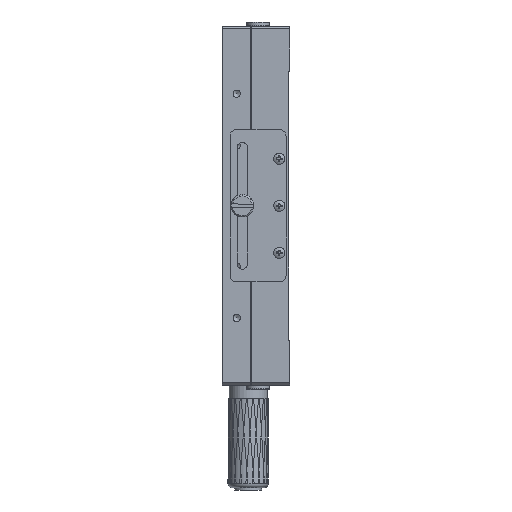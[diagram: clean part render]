
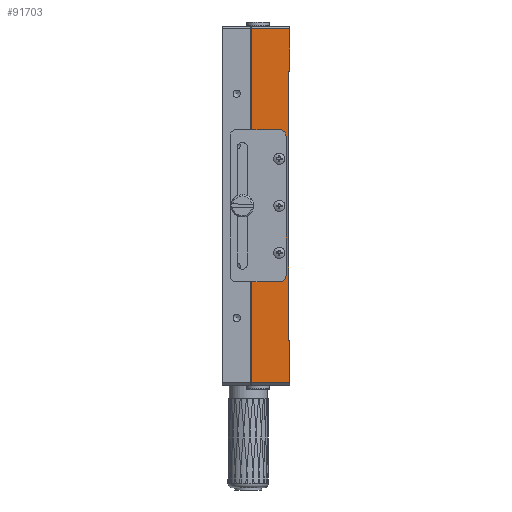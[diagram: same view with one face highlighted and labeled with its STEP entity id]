
A CAD part, left-side view. The second image highlights one B-rep face of the part: STEP entity #91703.
In plain terms, the highlighted planar face has unit normal (-1, 0, 0).
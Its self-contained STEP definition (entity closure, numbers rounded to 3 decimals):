
#130 = CARTESIAN_POINT ( 'NONE',  ( -2.918, 157.394, 189.427 ) ) ;
#1542 = LINE ( 'NONE', #82682, #42223 ) ;
#2024 = CARTESIAN_POINT ( 'NONE',  ( -2.918, 157.394, 30.427 ) ) ;
#2440 = ORIENTED_EDGE ( 'NONE', *, *, #15307, .T. ) ;
#3737 = ORIENTED_EDGE ( 'NONE', *, *, #72878, .T. ) ;
#11453 = EDGE_LOOP ( 'NONE', ( #44186 ) ) ;
#11885 = CARTESIAN_POINT ( 'NONE',  ( -2.918, 140.394, 189.427 ) ) ;
#14336 = DIRECTION ( 'NONE',  ( -1., 0., 0. ) ) ;
#15307 = EDGE_CURVE ( 'NONE', #22212, #60358, #19681, .T. ) ;
#16228 = VERTEX_POINT ( 'NONE', #29289 ) ;
#16309 = VECTOR ( 'NONE', #19074, 1000. ) ;
#17539 = DIRECTION ( 'NONE',  ( -1., 0., 0. ) ) ;
#17788 = EDGE_CURVE ( 'NONE', #47603, #19827, #62557, .T. ) ;
#18618 = VERTEX_POINT ( 'NONE', #95328 ) ;
#19074 = DIRECTION ( 'NONE',  ( 0., -1., 0. ) ) ;
#19681 = LINE ( 'NONE', #55567, #106680 ) ;
#19728 = DIRECTION ( 'NONE',  ( 0., 0., 1. ) ) ;
#19827 = VERTEX_POINT ( 'NONE', #81043 ) ;
#19866 = ORIENTED_EDGE ( 'NONE', *, *, #75419, .F. ) ;
#20182 = AXIS2_PLACEMENT_3D ( 'NONE', #81491, #63253, #19728 ) ;
#21088 = FACE_BOUND ( 'NONE', #30159, .T. ) ;
#22212 = VERTEX_POINT ( 'NONE', #71101 ) ;
#22928 = AXIS2_PLACEMENT_3D ( 'NONE', #86691, #14336, #104315 ) ;
#24765 = DIRECTION ( 'NONE',  ( 0., 1., 0. ) ) ;
#27447 = DIRECTION ( 'NONE',  ( 0., 0., -1. ) ) ;
#28772 = FACE_BOUND ( 'NONE', #67439, .T. ) ;
#29066 = CARTESIAN_POINT ( 'NONE',  ( -2.918, 157.394, 188.427 ) ) ;
#29289 = CARTESIAN_POINT ( 'NONE',  ( -2.918, 140.394, 30.427 ) ) ;
#30159 = EDGE_LOOP ( 'NONE', ( #115933 ) ) ;
#32392 = CIRCLE ( 'NONE', #22928, 1.025 ) ;
#33749 = EDGE_CURVE ( 'NONE', #114940, #114940, #64539, .T. ) ;
#34242 = ORIENTED_EDGE ( 'NONE', *, *, #65011, .F. ) ;
#35282 = ORIENTED_EDGE ( 'NONE', *, *, #17788, .F. ) ;
#35856 = CARTESIAN_POINT ( 'NONE',  ( -2.918, 144.994, 110.452 ) ) ;
#36124 = CARTESIAN_POINT ( 'NONE',  ( -2.918, 144.994, 131.452 ) ) ;
#36171 = CARTESIAN_POINT ( 'NONE',  ( -2.918, 140.694, 169.427 ) ) ;
#36749 = DIRECTION ( 'NONE',  ( 0., -1., 0. ) ) ;
#37022 = FACE_OUTER_BOUND ( 'NONE', #115881, .T. ) ;
#37971 = EDGE_CURVE ( 'NONE', #44954, #44954, #83990, .T. ) ;
#38182 = PLANE ( 'NONE',  #82624 ) ;
#38763 = DIRECTION ( 'NONE',  ( 1., 0., 0. ) ) ;
#41662 = CARTESIAN_POINT ( 'NONE',  ( -2.918, 140.394, 188.427 ) ) ;
#42223 = VECTOR ( 'NONE', #27447, 1000. ) ;
#43137 = ORIENTED_EDGE ( 'NONE', *, *, #107807, .T. ) ;
#44186 = ORIENTED_EDGE ( 'NONE', *, *, #33749, .F. ) ;
#44947 = DIRECTION ( 'NONE',  ( 0., -1., 0. ) ) ;
#44954 = VERTEX_POINT ( 'NONE', #36124 ) ;
#47234 = DIRECTION ( 'NONE',  ( 0., 0., 1. ) ) ;
#47593 = FACE_BOUND ( 'NONE', #11453, .T. ) ;
#47603 = VERTEX_POINT ( 'NONE', #74513 ) ;
#50088 = LINE ( 'NONE', #114145, #112705 ) ;
#53807 = LINE ( 'NONE', #36171, #16309 ) ;
#55170 = AXIS2_PLACEMENT_3D ( 'NONE', #89269, #17539, #62218 ) ;
#55567 = CARTESIAN_POINT ( 'NONE',  ( -2.918, 140.394, 189.427 ) ) ;
#59992 = VECTOR ( 'NONE', #47234, 1000. ) ;
#60358 = VERTEX_POINT ( 'NONE', #41662 ) ;
#62218 = DIRECTION ( 'NONE',  ( 0., 0., 1. ) ) ;
#62542 = VERTEX_POINT ( 'NONE', #78433 ) ;
#62557 = LINE ( 'NONE', #89607, #109376 ) ;
#63253 = DIRECTION ( 'NONE',  ( -1., 0., 0. ) ) ;
#64117 = ORIENTED_EDGE ( 'NONE', *, *, #101443, .F. ) ;
#64539 = CIRCLE ( 'NONE', #55170, 1.025 ) ;
#64762 = LINE ( 'NONE', #130, #97296 ) ;
#65011 = EDGE_CURVE ( 'NONE', #62542, #110137, #64762, .T. ) ;
#65774 = DIRECTION ( 'NONE',  ( 0., 0., -1. ) ) ;
#67439 = EDGE_LOOP ( 'NONE', ( #19866 ) ) ;
#70816 = CARTESIAN_POINT ( 'NONE',  ( -2.918, 144.994, 89.452 ) ) ;
#71101 = CARTESIAN_POINT ( 'NONE',  ( -2.918, 140.394, 169.427 ) ) ;
#72878 = EDGE_CURVE ( 'NONE', #62542, #16228, #108451, .T. ) ;
#74513 = CARTESIAN_POINT ( 'NONE',  ( -2.918, 140.694, 49.427 ) ) ;
#75419 = EDGE_CURVE ( 'NONE', #80524, #80524, #32392, .T. ) ;
#78433 = CARTESIAN_POINT ( 'NONE',  ( -2.918, 157.394, 30.427 ) ) ;
#80524 = VERTEX_POINT ( 'NONE', #35856 ) ;
#80980 = EDGE_CURVE ( 'NONE', #60358, #110137, #50088, .T. ) ;
#81043 = CARTESIAN_POINT ( 'NONE',  ( -2.918, 140.394, 49.427 ) ) ;
#81491 = CARTESIAN_POINT ( 'NONE',  ( -2.918, 144.994, 130.427 ) ) ;
#82624 = AXIS2_PLACEMENT_3D ( 'NONE', #92261, #38763, #65774 ) ;
#82682 = CARTESIAN_POINT ( 'NONE',  ( -2.918, 140.694, 189.427 ) ) ;
#83990 = CIRCLE ( 'NONE', #20182, 1.025 ) ;
#86458 = EDGE_CURVE ( 'NONE', #16228, #19827, #108949, .T. ) ;
#86691 = CARTESIAN_POINT ( 'NONE',  ( -2.918, 144.994, 109.427 ) ) ;
#88769 = VECTOR ( 'NONE', #36749, 1000. ) ;
#89269 = CARTESIAN_POINT ( 'NONE',  ( -2.918, 144.994, 88.427 ) ) ;
#89607 = CARTESIAN_POINT ( 'NONE',  ( -2.918, 140.694, 49.427 ) ) ;
#90390 = ORIENTED_EDGE ( 'NONE', *, *, #86458, .T. ) ;
#91409 = DIRECTION ( 'NONE',  ( 0., 0., 1. ) ) ;
#91703 = ADVANCED_FACE ( 'NONE', ( #37022, #21088, #28772, #47593 ), #38182, .F. ) ;
#92261 = CARTESIAN_POINT ( 'NONE',  ( -2.918, 157.394, 189.427 ) ) ;
#95328 = CARTESIAN_POINT ( 'NONE',  ( -2.918, 140.694, 169.427 ) ) ;
#97296 = VECTOR ( 'NONE', #100628, 1000. ) ;
#100628 = DIRECTION ( 'NONE',  ( 0., 0., 1. ) ) ;
#101443 = EDGE_CURVE ( 'NONE', #18618, #47603, #1542, .T. ) ;
#104315 = DIRECTION ( 'NONE',  ( 0., 0., 1. ) ) ;
#106680 = VECTOR ( 'NONE', #91409, 1000. ) ;
#107807 = EDGE_CURVE ( 'NONE', #18618, #22212, #53807, .T. ) ;
#108451 = LINE ( 'NONE', #2024, #88769 ) ;
#108949 = LINE ( 'NONE', #11885, #59992 ) ;
#109376 = VECTOR ( 'NONE', #44947, 1000. ) ;
#110137 = VERTEX_POINT ( 'NONE', #29066 ) ;
#112705 = VECTOR ( 'NONE', #24765, 1000. ) ;
#113445 = ORIENTED_EDGE ( 'NONE', *, *, #80980, .T. ) ;
#114145 = CARTESIAN_POINT ( 'NONE',  ( -2.918, 157.394, 188.427 ) ) ;
#114940 = VERTEX_POINT ( 'NONE', #70816 ) ;
#115881 = EDGE_LOOP ( 'NONE', ( #35282, #64117, #43137, #2440, #113445, #34242, #3737, #90390 ) ) ;
#115933 = ORIENTED_EDGE ( 'NONE', *, *, #37971, .F. ) ;
